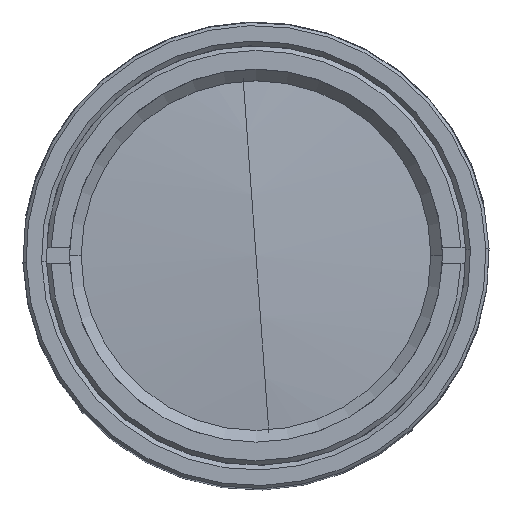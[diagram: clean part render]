
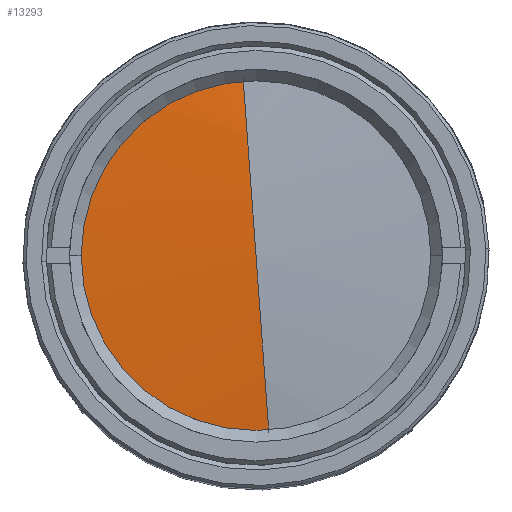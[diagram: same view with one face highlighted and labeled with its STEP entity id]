
A CAD part, top view. The second image highlights one B-rep face of the part: STEP entity #13293.
In plain terms, the highlighted spherical face has radius 97.7 mm.
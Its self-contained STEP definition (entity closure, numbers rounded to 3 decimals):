
#468 = EDGE_CURVE ( 'NONE', #5756, #12022, #10756, .T. ) ;
#610 = AXIS2_PLACEMENT_3D ( 'NONE', #9243, #837, #3994 ) ;
#837 = DIRECTION ( 'NONE',  ( 0., 0., 1. ) ) ;
#1885 = DIRECTION ( 'NONE',  ( 0.997, 0.073, 0. ) ) ;
#2055 = DIRECTION ( 'NONE',  ( 0., 0., 1. ) ) ;
#2336 = SPHERICAL_SURFACE ( 'NONE', #11075, 97.7 ) ;
#2553 = CARTESIAN_POINT ( 'NONE',  ( -0.854, 11.741, 140.844 ) ) ;
#2567 = CIRCLE ( 'NONE', #4105, 11.772 ) ;
#3288 = DIRECTION ( 'NONE',  ( -0.997, -0.073, 0. ) ) ;
#3849 = ORIENTED_EDGE ( 'NONE', *, *, #7037, .T. ) ;
#3994 = DIRECTION ( 'NONE',  ( -0.997, -0.073, 0. ) ) ;
#4105 = AXIS2_PLACEMENT_3D ( 'NONE', #11523, #2055, #6246 ) ;
#4348 = DIRECTION ( 'NONE',  ( 0.073, -0.997, 0. ) ) ;
#4623 = EDGE_CURVE ( 'NONE', #6083, #5756, #2567, .T. ) ;
#5279 = CIRCLE ( 'NONE', #11024, 97.7 ) ;
#5756 = VERTEX_POINT ( 'NONE', #8579 ) ;
#5832 = EDGE_LOOP ( 'NONE', ( #11442, #9920, #3849, #12917 ) ) ;
#6067 = DIRECTION ( 'NONE',  ( -0.073, 0.997, 0. ) ) ;
#6083 = VERTEX_POINT ( 'NONE', #2553 ) ;
#6246 = DIRECTION ( 'NONE',  ( -0.997, -0.073, 0. ) ) ;
#6318 = FACE_OUTER_BOUND ( 'NONE', #5832, .T. ) ;
#6425 = CARTESIAN_POINT ( 'NONE',  ( 0., 0., 43.856 ) ) ;
#7037 = EDGE_CURVE ( 'NONE', #12022, #10733, #5279, .T. ) ;
#8579 = CARTESIAN_POINT ( 'NONE',  ( -11.741, -0.854, 140.844 ) ) ;
#8663 = DIRECTION ( 'NONE',  ( -0.073, 0.997, 0. ) ) ;
#9243 = CARTESIAN_POINT ( 'NONE',  ( 0., 0., 140.844 ) ) ;
#9255 = CARTESIAN_POINT ( 'NONE',  ( 0., 0., 43.856 ) ) ;
#9920 = ORIENTED_EDGE ( 'NONE', *, *, #468, .T. ) ;
#10423 = EDGE_CURVE ( 'NONE', #6083, #10733, #12765, .T. ) ;
#10649 = DIRECTION ( 'NONE',  ( -0.997, -0.073, 0. ) ) ;
#10733 = VERTEX_POINT ( 'NONE', #10915 ) ;
#10752 = CARTESIAN_POINT ( 'NONE',  ( 0., 0., 43.856 ) ) ;
#10756 = CIRCLE ( 'NONE', #610, 11.772 ) ;
#10915 = CARTESIAN_POINT ( 'NONE',  ( 0., 0., 141.556 ) ) ;
#10986 = AXIS2_PLACEMENT_3D ( 'NONE', #9255, #1885, #6067 ) ;
#11024 = AXIS2_PLACEMENT_3D ( 'NONE', #6425, #10649, #4348 ) ;
#11075 = AXIS2_PLACEMENT_3D ( 'NONE', #10752, #3288, #8663 ) ;
#11442 = ORIENTED_EDGE ( 'NONE', *, *, #4623, .T. ) ;
#11523 = CARTESIAN_POINT ( 'NONE',  ( 0., 0., 140.844 ) ) ;
#12022 = VERTEX_POINT ( 'NONE', #13189 ) ;
#12765 = CIRCLE ( 'NONE', #10986, 97.7 ) ;
#12917 = ORIENTED_EDGE ( 'NONE', *, *, #10423, .F. ) ;
#13189 = CARTESIAN_POINT ( 'NONE',  ( 0.854, -11.741, 140.844 ) ) ;
#13293 = ADVANCED_FACE ( 'NONE', ( #6318 ), #2336, .T. ) ;
